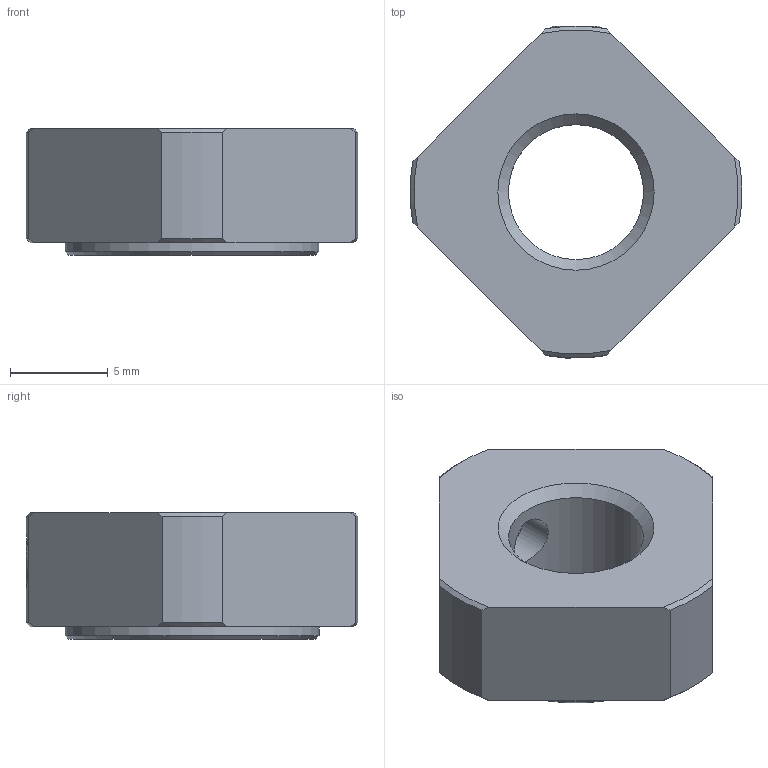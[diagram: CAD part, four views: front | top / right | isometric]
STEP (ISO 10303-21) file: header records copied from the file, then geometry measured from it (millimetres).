
FILE_DESCRIPTION(/* description */ ('STEP AP203'),/* implementation_level */ '2;1');
FILE_NAME(/* name */ 'RN 8',/* time_stamp */ '2025-06-11T07:41:00+02:00',/* author */ ('License CC BY-ND 4.0'),/* organization */ ('CADENAS'),/* preprocessor_version */ 'ST-DEVELOPER v19.3',/* originating_system */ 'PARTsolutions',/* authorisation */ ' ');
FILE_SCHEMA (('CONFIG_CONTROL_DESIGN'));
Length unit declared in the file: millimetre
Products named in the file (1): RN 8
Bounding box: 16.97 x 16.98 x 6.5 mm (x, y, z)
Volume: 921.8 mm3; surface area: 767.6 mm2
Topology: 1 solids, 1 shells, 36 faces, 86 edges, 56 vertices
Faces by surface type: plane 16, cone 12, cylinder 8
Full cylindrical faces by diameter (mm): 2.459 x1, 3 x1, 6.917 x1, 13 x1
Entity records: 1070 total; most frequent: CARTESIAN_POINT 239, DIRECTION 160, ORIENTED_EDGE 156, EDGE_CURVE 78, AXIS2_PLACEMENT_3D 63, VERTEX_POINT 56, EDGE_LOOP 50, FACE_BOUND 50
